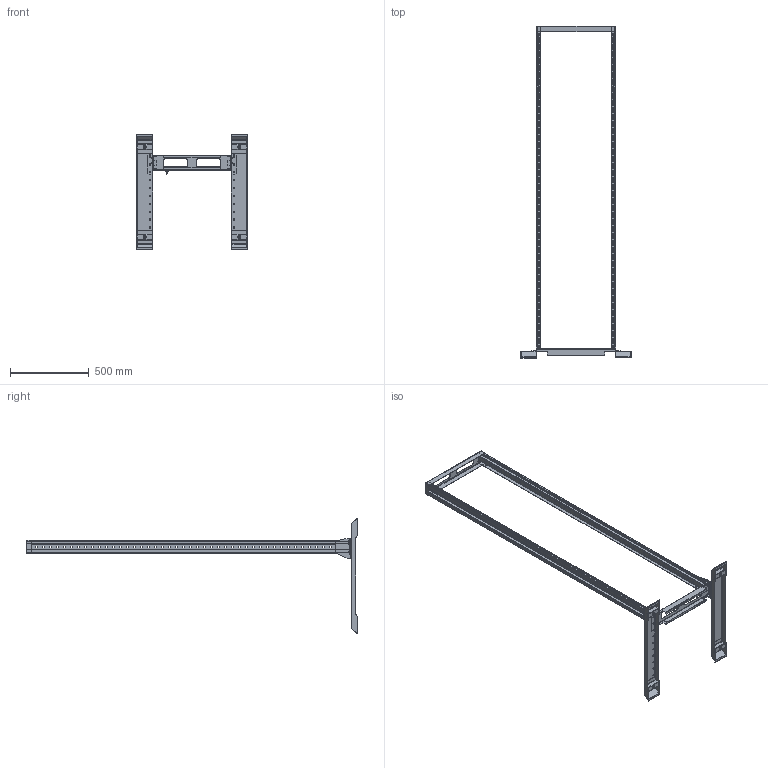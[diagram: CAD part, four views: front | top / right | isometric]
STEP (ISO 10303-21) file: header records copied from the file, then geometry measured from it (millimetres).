
FILE_DESCRIPTION (( 'STEP AP203' ), '1' );
FILE_NAME ('IFO 45.57.74 Ñòîéêà òåëåêîììóíèêàöèîííàÿ.STEP', '2013-01-15T12:26:27', ( 'System' ), ( '' ), 'SwSTEP 2.0', 'SolidWorks 2012', '' );
FILE_SCHEMA (( 'CONFIG_CONTROL_DESIGN' ));
Products named in the file (3): IFO 45.57.74 Ñòîéêà òåëåêîììóíèêàöèîííàÿ; IFO 74 ﾎ魵瑙韃; IFO 45.57 01.000捘 冓憵
Assembly tree (3 placements, depth 2):
  IFO 45.57.74 Ñòîéêà òåëåêîììóíèêàöèîííàÿ
    IFO 45.57 01.000捘 冓憵
    IFO 74 ﾎ魵瑙韃  x2
Bounding box: 700 x 2106.73 x 734.95 mm (x, y, z)
Volume: 2230835.6 mm3; surface area: 2245870.4 mm2
Topology: 4 solids, 4 shells, 4502 faces, 13224 edges, 8712 vertices
Faces by surface type: plane 2480, cylinder 1886, bspline 72, torus 36, cone 28
Entity records: 137077 total; most frequent: CARTESIAN_POINT 25511, ORIENTED_EDGE 23450, DIRECTION 23392, EDGE_CURVE 11725, AXIS2_PLACEMENT_3D 7900, VERTEX_POINT 7727, VECTOR 7592, LINE 7592
